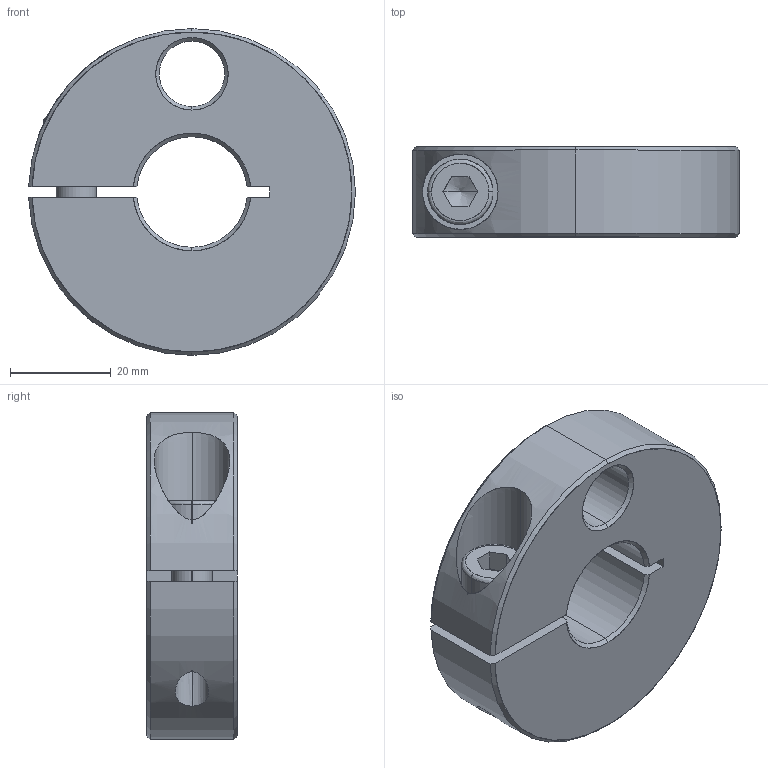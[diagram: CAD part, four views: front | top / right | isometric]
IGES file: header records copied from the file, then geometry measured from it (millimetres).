
Start section: SolidWorks IGES FILE using analytic representation for surfaces
Global section: file name: C:\WIX2\Positioning\3865\3865W022.igs; native system: SolidWorks 2003 by SolidWorks Corporation; preprocessor: Version 5.3; author: Joan; date: 030722.172927; units: millimetre
Bounding box: 64.98 x 18 x 65 mm (x, y, z)
Surface area: 14085 mm2 (no closed solid volume)
Topology: 0 solids, 0 shells, 66 faces, 1043 edges, 1041 vertices
Faces by surface type: revolution 46, bspline 20
